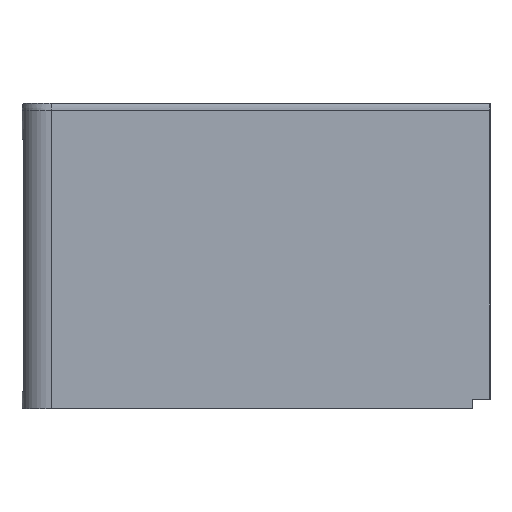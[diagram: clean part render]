
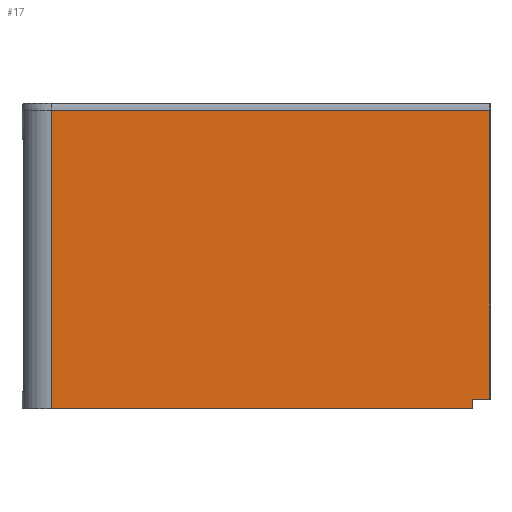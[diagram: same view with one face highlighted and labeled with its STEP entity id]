
A CAD part, left-side view. The second image highlights one B-rep face of the part: STEP entity #17.
In plain terms, the highlighted planar face has unit normal (-1, 0, 0).
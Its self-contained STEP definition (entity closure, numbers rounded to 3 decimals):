
#17 = ADVANCED_FACE('',(#18),#32,.F.);
#18 = FACE_BOUND('',#19,.F.);
#19 = EDGE_LOOP('',(#20,#53,#79,#105,#133,#161));
#20 = ORIENTED_EDGE('',*,*,#21,.F.);
#21 = EDGE_CURVE('',#22,#24,#26,.T.);
#22 = VERTEX_POINT('',#23);
#23 = CARTESIAN_POINT('',(0.,200.,1.6));
#24 = VERTEX_POINT('',#25);
#25 = CARTESIAN_POINT('',(0.,200.,51.));
#26 = SURFACE_CURVE('',#27,(#31,#42),.PCURVE_S1.);
#27 = LINE('',#28,#29);
#28 = CARTESIAN_POINT('',(0.,200.,0.));
#29 = VECTOR('',#30,1.);
#30 = DIRECTION('',(0.,0.,1.));
#31 = PCURVE('',#32,#37);
#32 = PLANE('',#33);
#33 = AXIS2_PLACEMENT_3D('',#34,#35,#36);
#34 = CARTESIAN_POINT('',(0.,0.,0.));
#35 = DIRECTION('',(1.,0.,0.));
#36 = DIRECTION('',(0.,0.,1.));
#37 = DEFINITIONAL_REPRESENTATION('',(#38),#41);
#38 = B_SPLINE_CURVE_WITH_KNOTS('',1,(#39,#40),.UNSPECIFIED.,.F.,.F.,(2,
    2),(0.,51.),.PIECEWISE_BEZIER_KNOTS.);
#39 = CARTESIAN_POINT('',(0.,-200.));
#40 = CARTESIAN_POINT('',(51.,-200.));
#41 = ( GEOMETRIC_REPRESENTATION_CONTEXT(2) 
PARAMETRIC_REPRESENTATION_CONTEXT() REPRESENTATION_CONTEXT('2D SPACE',''
  ) );
#42 = PCURVE('',#43,#48);
#43 = PLANE('',#44);
#44 = AXIS2_PLACEMENT_3D('',#45,#46,#47);
#45 = CARTESIAN_POINT('',(-1.,200.,0.));
#46 = DIRECTION('',(0.,1.,0.));
#47 = DIRECTION('',(0.,0.,1.));
#48 = DEFINITIONAL_REPRESENTATION('',(#49),#52);
#49 = B_SPLINE_CURVE_WITH_KNOTS('',1,(#50,#51),.UNSPECIFIED.,.F.,.F.,(2,
    2),(0.,51.),.PIECEWISE_BEZIER_KNOTS.);
#50 = CARTESIAN_POINT('',(0.,1.));
#51 = CARTESIAN_POINT('',(51.,1.));
#52 = ( GEOMETRIC_REPRESENTATION_CONTEXT(2) 
PARAMETRIC_REPRESENTATION_CONTEXT() REPRESENTATION_CONTEXT('2D SPACE',''
  ) );
#53 = ORIENTED_EDGE('',*,*,#54,.F.);
#54 = EDGE_CURVE('',#55,#22,#57,.T.);
#55 = VERTEX_POINT('',#56);
#56 = CARTESIAN_POINT('',(0.,203.,1.6));
#57 = SURFACE_CURVE('',#58,(#62,#68),.PCURVE_S1.);
#58 = LINE('',#59,#60);
#59 = CARTESIAN_POINT('',(0.,99.5,1.6));
#60 = VECTOR('',#61,1.);
#61 = DIRECTION('',(0.,-1.,0.));
#62 = PCURVE('',#32,#63);
#63 = DEFINITIONAL_REPRESENTATION('',(#64),#67);
#64 = B_SPLINE_CURVE_WITH_KNOTS('',1,(#65,#66),.UNSPECIFIED.,.F.,.F.,(2,
    2),(-103.5,-100.5),.PIECEWISE_BEZIER_KNOTS.);
#65 = CARTESIAN_POINT('',(1.6,-203.));
#66 = CARTESIAN_POINT('',(1.6,-200.));
#67 = ( GEOMETRIC_REPRESENTATION_CONTEXT(2) 
PARAMETRIC_REPRESENTATION_CONTEXT() REPRESENTATION_CONTEXT('2D SPACE',''
  ) );
#68 = PCURVE('',#69,#74);
#69 = PLANE('',#70);
#70 = AXIS2_PLACEMENT_3D('',#71,#72,#73);
#71 = CARTESIAN_POINT('',(-1.,199.,1.6));
#72 = DIRECTION('',(0.,0.,1.));
#73 = DIRECTION('',(1.,0.,0.));
#74 = DEFINITIONAL_REPRESENTATION('',(#75),#78);
#75 = B_SPLINE_CURVE_WITH_KNOTS('',1,(#76,#77),.UNSPECIFIED.,.F.,.F.,(2,
    2),(-103.5,-100.5),.PIECEWISE_BEZIER_KNOTS.);
#76 = CARTESIAN_POINT('',(1.,4.));
#77 = CARTESIAN_POINT('',(1.,1.));
#78 = ( GEOMETRIC_REPRESENTATION_CONTEXT(2) 
PARAMETRIC_REPRESENTATION_CONTEXT() REPRESENTATION_CONTEXT('2D SPACE',''
  ) );
#79 = ORIENTED_EDGE('',*,*,#80,.F.);
#80 = EDGE_CURVE('',#81,#55,#83,.T.);
#81 = VERTEX_POINT('',#82);
#82 = CARTESIAN_POINT('',(0.,203.,0.));
#83 = SURFACE_CURVE('',#84,(#88,#94),.PCURVE_S1.);
#84 = LINE('',#85,#86);
#85 = CARTESIAN_POINT('',(0.,203.,-0.5));
#86 = VECTOR('',#87,1.);
#87 = DIRECTION('',(0.,0.,1.));
#88 = PCURVE('',#32,#89);
#89 = DEFINITIONAL_REPRESENTATION('',(#90),#93);
#90 = B_SPLINE_CURVE_WITH_KNOTS('',1,(#91,#92),.UNSPECIFIED.,.F.,.F.,(2,
    2),(0.5,2.1),.PIECEWISE_BEZIER_KNOTS.);
#91 = CARTESIAN_POINT('',(0.,-203.));
#92 = CARTESIAN_POINT('',(1.6,-203.));
#93 = ( GEOMETRIC_REPRESENTATION_CONTEXT(2) 
PARAMETRIC_REPRESENTATION_CONTEXT() REPRESENTATION_CONTEXT('2D SPACE',''
  ) );
#94 = PCURVE('',#95,#100);
#95 = PLANE('',#96);
#96 = AXIS2_PLACEMENT_3D('',#97,#98,#99);
#97 = CARTESIAN_POINT('',(-1.,203.,-1.));
#98 = DIRECTION('',(0.,1.,0.));
#99 = DIRECTION('',(0.,0.,1.));
#100 = DEFINITIONAL_REPRESENTATION('',(#101),#104);
#101 = B_SPLINE_CURVE_WITH_KNOTS('',1,(#102,#103),.UNSPECIFIED.,.F.,.F.,
  (2,2),(0.5,2.1),.PIECEWISE_BEZIER_KNOTS.);
#102 = CARTESIAN_POINT('',(1.,1.));
#103 = CARTESIAN_POINT('',(2.6,1.));
#104 = ( GEOMETRIC_REPRESENTATION_CONTEXT(2) 
PARAMETRIC_REPRESENTATION_CONTEXT() REPRESENTATION_CONTEXT('2D SPACE',''
  ) );
#105 = ORIENTED_EDGE('',*,*,#106,.T.);
#106 = EDGE_CURVE('',#81,#107,#109,.T.);
#107 = VERTEX_POINT('',#108);
#108 = CARTESIAN_POINT('',(0.,275.,0.));
#109 = SURFACE_CURVE('',#110,(#114,#121),.PCURVE_S1.);
#110 = LINE('',#111,#112);
#111 = CARTESIAN_POINT('',(0.,0.,0.));
#112 = VECTOR('',#113,1.);
#113 = DIRECTION('',(0.,1.,0.));
#114 = PCURVE('',#32,#115);
#115 = DEFINITIONAL_REPRESENTATION('',(#116),#120);
#116 = LINE('',#117,#118);
#117 = CARTESIAN_POINT('',(0.,0.));
#118 = VECTOR('',#119,1.);
#119 = DIRECTION('',(0.,-1.));
#120 = ( GEOMETRIC_REPRESENTATION_CONTEXT(2) 
PARAMETRIC_REPRESENTATION_CONTEXT() REPRESENTATION_CONTEXT('2D SPACE',''
  ) );
#121 = PCURVE('',#122,#127);
#122 = PLANE('',#123);
#123 = AXIS2_PLACEMENT_3D('',#124,#125,#126);
#124 = CARTESIAN_POINT('',(0.,0.,0.));
#125 = DIRECTION('',(0.,0.,1.));
#126 = DIRECTION('',(1.,0.,0.));
#127 = DEFINITIONAL_REPRESENTATION('',(#128),#132);
#128 = LINE('',#129,#130);
#129 = CARTESIAN_POINT('',(0.,0.));
#130 = VECTOR('',#131,1.);
#131 = DIRECTION('',(0.,1.));
#132 = ( GEOMETRIC_REPRESENTATION_CONTEXT(2) 
PARAMETRIC_REPRESENTATION_CONTEXT() REPRESENTATION_CONTEXT('2D SPACE',''
  ) );
#133 = ORIENTED_EDGE('',*,*,#134,.T.);
#134 = EDGE_CURVE('',#107,#135,#137,.T.);
#135 = VERTEX_POINT('',#136);
#136 = CARTESIAN_POINT('',(0.,275.,51.));
#137 = SURFACE_CURVE('',#138,(#142,#149),.PCURVE_S1.);
#138 = LINE('',#139,#140);
#139 = CARTESIAN_POINT('',(0.,275.,0.));
#140 = VECTOR('',#141,1.);
#141 = DIRECTION('',(0.,0.,1.));
#142 = PCURVE('',#32,#143);
#143 = DEFINITIONAL_REPRESENTATION('',(#144),#148);
#144 = LINE('',#145,#146);
#145 = CARTESIAN_POINT('',(0.,-275.));
#146 = VECTOR('',#147,1.);
#147 = DIRECTION('',(1.,0.));
#148 = ( GEOMETRIC_REPRESENTATION_CONTEXT(2) 
PARAMETRIC_REPRESENTATION_CONTEXT() REPRESENTATION_CONTEXT('2D SPACE',''
  ) );
#149 = PCURVE('',#150,#155);
#150 = CYLINDRICAL_SURFACE('',#151,5.);
#151 = AXIS2_PLACEMENT_3D('',#152,#153,#154);
#152 = CARTESIAN_POINT('',(5.,275.,0.));
#153 = DIRECTION('',(0.,0.,1.));
#154 = DIRECTION('',(-1.,-0.,0.));
#155 = DEFINITIONAL_REPRESENTATION('',(#156),#160);
#156 = LINE('',#157,#158);
#157 = CARTESIAN_POINT('',(-0.,0.));
#158 = VECTOR('',#159,1.);
#159 = DIRECTION('',(-0.,1.));
#160 = ( GEOMETRIC_REPRESENTATION_CONTEXT(2) 
PARAMETRIC_REPRESENTATION_CONTEXT() REPRESENTATION_CONTEXT('2D SPACE',''
  ) );
#161 = ORIENTED_EDGE('',*,*,#162,.T.);
#162 = EDGE_CURVE('',#135,#24,#163,.T.);
#163 = SURFACE_CURVE('',#164,(#168,#175),.PCURVE_S1.);
#164 = LINE('',#165,#166);
#165 = CARTESIAN_POINT('',(0.,275.,51.));
#166 = VECTOR('',#167,1.);
#167 = DIRECTION('',(-0.,-1.,-0.));
#168 = PCURVE('',#32,#169);
#169 = DEFINITIONAL_REPRESENTATION('',(#170),#174);
#170 = LINE('',#171,#172);
#171 = CARTESIAN_POINT('',(51.,-275.));
#172 = VECTOR('',#173,1.);
#173 = DIRECTION('',(-0.,1.));
#174 = ( GEOMETRIC_REPRESENTATION_CONTEXT(2) 
PARAMETRIC_REPRESENTATION_CONTEXT() REPRESENTATION_CONTEXT('2D SPACE',''
  ) );
#175 = PCURVE('',#176,#181);
#176 = CYLINDRICAL_SURFACE('',#177,4.);
#177 = AXIS2_PLACEMENT_3D('',#178,#179,#180);
#178 = CARTESIAN_POINT('',(4.,275.,51.));
#179 = DIRECTION('',(-0.,-1.,-0.));
#180 = DIRECTION('',(0.,0.,1.));
#181 = DEFINITIONAL_REPRESENTATION('',(#182),#186);
#182 = LINE('',#183,#184);
#183 = CARTESIAN_POINT('',(1.571,0.));
#184 = VECTOR('',#185,1.);
#185 = DIRECTION('',(0.,1.));
#186 = ( GEOMETRIC_REPRESENTATION_CONTEXT(2) 
PARAMETRIC_REPRESENTATION_CONTEXT() REPRESENTATION_CONTEXT('2D SPACE',''
  ) );
